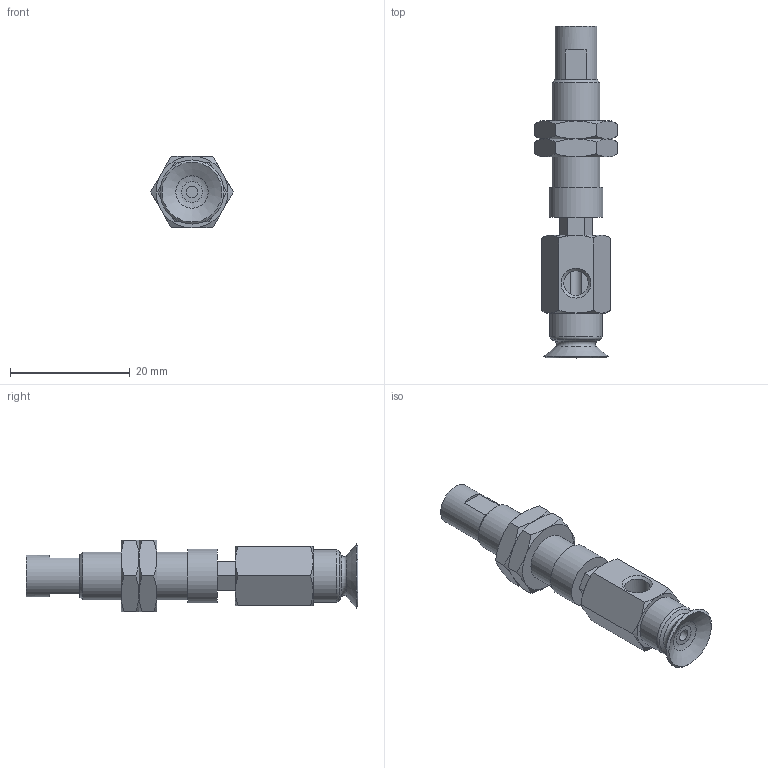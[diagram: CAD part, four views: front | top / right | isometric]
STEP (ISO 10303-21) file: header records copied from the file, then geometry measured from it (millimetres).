
FILE_DESCRIPTION(('STEP AP203'),'1');
FILE_NAME('.stp','2025-04-10T03:20:25',(' '),(' '),'Spatial InterOp 3D',' ',' ');
FILE_SCHEMA(('CONFIG_CONTROL_DESIGN'));
Length unit declared in the file: millimetre
Products named in the file (6): BNABPFYH-10A-3-※; CONNECTOR-H-10A-3; Nut-10A-3-h; NAPFTH-10A-3-FBODY; NAPFTH-10A-3-MBODY; BPFG-10A-※
Assembly tree (6 placements, depth 2):
  BNABPFYH-10A-3-※
    CONNECTOR-H-10A-3
    Nut-10A-3-h  x2
    NAPFTH-10A-3-FBODY
    NAPFTH-10A-3-MBODY
    BPFG-10A-※
Bounding box: 13.86 x 55.5 x 12 mm (x, y, z)
Volume: 3378.2 mm3; surface area: 4077.6 mm2
Topology: 6 solids, 6 shells, 139 faces, 300 edges, 183 vertices
Faces by surface type: plane 64, cone 51, cylinder 15, torus 8, bspline 1
Full cylindrical faces by diameter (mm): 2 x2, 4 x2, 4.134 x2, 5 x1, 6 x2, 7 x1, 7.188 x2, 8 x1, 8.7 x1, 9 x1
Entity records: 3467 total; most frequent: CARTESIAN_POINT 854, DIRECTION 478, ORIENTED_EDGE 418, EDGE_CURVE 209, AXIS2_PLACEMENT_3D 201, EDGE_LOOP 170, VERTEX_POINT 147, FACE_OUTER_BOUND 139
